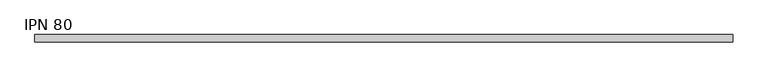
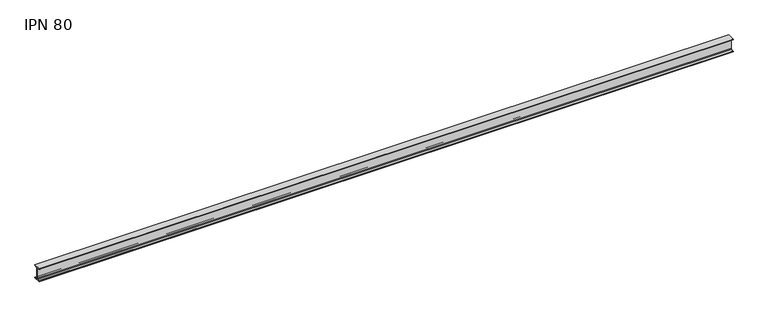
"""IFC4 building model written with IfcOpenShell, lengths in millimetres: beam geometry, IPN - Secciones en I con alas cónicas : IPN 80."""

from ifc_helpers import new_model, si_unit, point, frame, frame_2d, origin, place, context, project, spatial, polyline, circle_curve, trimmed, segment, composite_curve, outline, extrude, source, transform, mapped, element, save


def ipn_80_11f7b24b(model_context):
    return source(origin(), model_context, "Body", "SweptSolid", [
        extrude(outline(composite_curve([segment(polyline([(-21.0, 40.0), (21.0, 40.0), (21.0, 37.5704306)]), True, "CONTINUOUS"), segment(trimmed(circle_curve(frame_2d((18.7, 37.5704306)), 2.3), [point((21.0, 37.5704306))], [point((19.01889, 35.2926446))], False, "CARTESIAN"), True, "CONTINUOUS"), segment(polyline([(19.01889, 35.2926446), (5.3092734, 33.3732983)]), True, "CONTINUOUS"), segment(trimmed(circle_curve(frame_2d((5.85, 29.5109655)), 3.9), [point((5.3092734, 33.3732983))], [point((1.95, 29.5109655))], True, "CARTESIAN"), True, "CONTINUOUS"), segment(polyline([(1.95, 29.5109655), (1.95, -29.5109655)]), True, "CONTINUOUS"), segment(trimmed(circle_curve(frame_2d((5.85, -29.5109655)), 3.9), [point((1.95, -29.5109655))], [point((5.3092734, -33.3732983))], True, "CARTESIAN"), True, "CONTINUOUS"), segment(polyline([(5.3092734, -33.3732983), (19.01889, -35.2926446)]), True, "CONTINUOUS"), segment(trimmed(circle_curve(frame_2d((18.7, -37.5704306)), 2.3), [point((19.01889, -35.2926446))], [point((21.0, -37.5704306))], False, "CARTESIAN"), True, "CONTINUOUS"), segment(polyline([(21.0, -37.5704306), (21.0, -40.0), (-21.0, -40.0), (-21.0, -37.5704306)]), True, "CONTINUOUS"), segment(trimmed(circle_curve(frame_2d((-18.7, -37.5704306)), 2.3), [point((-21.0, -37.5704306))], [point((-19.01889, -35.2926446))], False, "CARTESIAN"), True, "CONTINUOUS"), segment(polyline([(-19.01889, -35.2926446), (-5.3092734, -33.3732983)]), True, "CONTINUOUS"), segment(trimmed(circle_curve(frame_2d((-5.85, -29.5109655)), 3.9), [point((-5.3092734, -33.3732983))], [point((-1.95, -29.5109655))], True, "CARTESIAN"), True, "CONTINUOUS"), segment(polyline([(-1.95, -29.5109655), (-1.95, 29.5109655)]), True, "CONTINUOUS"), segment(trimmed(circle_curve(frame_2d((-5.85, 29.5109655)), 3.9), [point((-1.95, 29.5109655))], [point((-5.3092734, 33.3732983))], True, "CARTESIAN"), True, "CONTINUOUS"), segment(polyline([(-5.3092734, 33.3732983), (-19.01889, 35.2926446)]), True, "CONTINUOUS"), segment(trimmed(circle_curve(frame_2d((-18.7, 37.5704306)), 2.3), [point((-19.01889, 35.2926446))], [point((-21.0, 37.5704306))], False, "CARTESIAN"), True, "CONTINUOUS"), segment(polyline([(-21.0, 37.5704306), (-21.0, 40.0)]), True, "CONTINUOUS")], self_intersect=False)), frame((-2037.0, 0.0, 0.0), z_axis=(1.0, 0.0, 0.0), x_axis=(0.0, 1.0, 0.0)), (0.0, 0.0, 1.0), 4051.8),
    ])


if __name__ == "__main__":
    model = new_model("IFC4")
    model_context = context("Model", 3, world=origin())
    ifc_project = project(units=[si_unit("LENGTHUNIT", "METRE", prefix="MILLI")], contexts=[model_context])
    site = spatial("IfcSite", under=ifc_project)
    building = spatial("IfcBuilding", under=site)
    placement = place(None, origin())
    ipn_80_shape = ipn_80_11f7b24b(model_context)
    element("IfcBeam", 1, ObjectType="IPN - Secciones en I con alas cónicas : IPN 80", at=placement, inside=building, context=model_context, shape_type="MappedRepresentation", body=[
        mapped(ipn_80_shape, transform((0.0, 0.0, 0.0), x_axis=(1.0, 0.0, 0.0), y_axis=(0.0, 1.0, 0.0), z_axis=(0.0, 0.0, 1.0))),
    ])
    save(model, "model.ifc")
